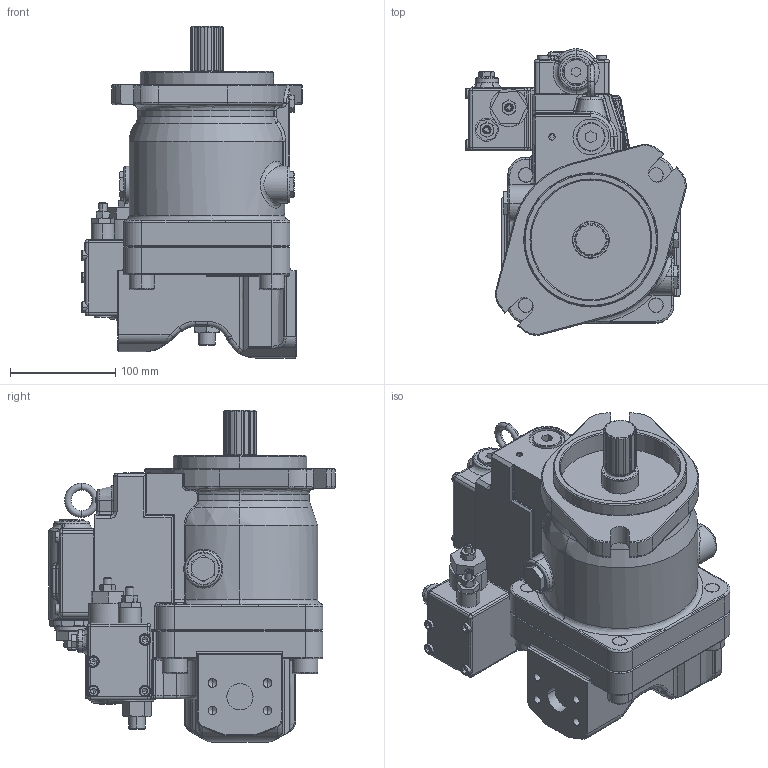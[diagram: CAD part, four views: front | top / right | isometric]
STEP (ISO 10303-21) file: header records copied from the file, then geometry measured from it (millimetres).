
FILE_DESCRIPTION((''),'2;1');
FILE_NAME('I:\Inventor\K3V, M2X\MODEL LIBRARY\K3VL80A 10RSS LO 1-L1.stp','2005-03-03T14:35:12',('mnorman'),(''),'Autodesk Inventor 9','Autodesk Inventor 9','');
FILE_SCHEMA(('AUTOMOTIVE_DESIGN { 1 0 10303 214 1 1 1 1 }'));
Length unit declared in the file: millimetre
Products named in the file (1): K3VL80_A-10RSS-LO_1-L1 assy
Bounding box: 209.74 x 272.73 x 316 mm (x, y, z)
Volume: 6092049.4 mm3; surface area: 390170.9 mm2
Topology: 1 solids, 30 shells, 1791 faces, 4393 edges, 2650 vertices
Faces by surface type: cylinder 551, plane 529, bspline 331, cone 275, torus 92, sphere 13
Entity records: 62555 total; most frequent: CARTESIAN_POINT 22376, ORIENTED_EDGE 8590, DIRECTION 8413, EDGE_CURVE 4295, AXIS2_PLACEMENT_3D 3353, VERTEX_POINT 2650, EDGE_LOOP 1907, CIRCLE 1816
